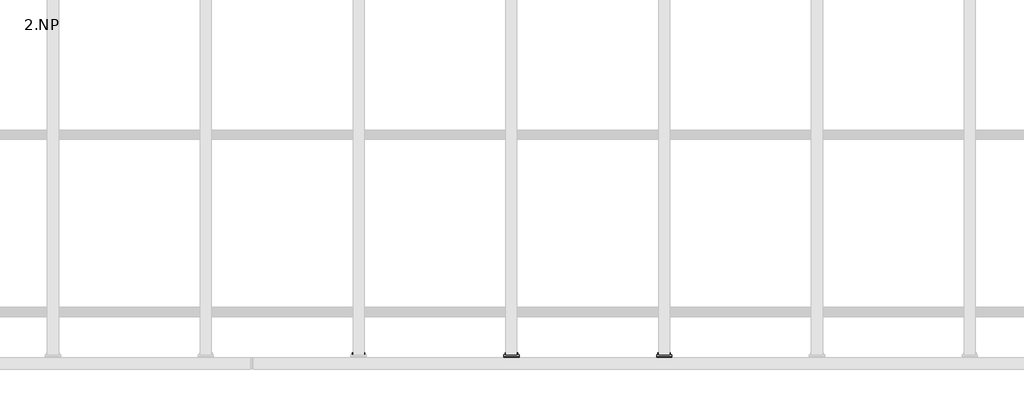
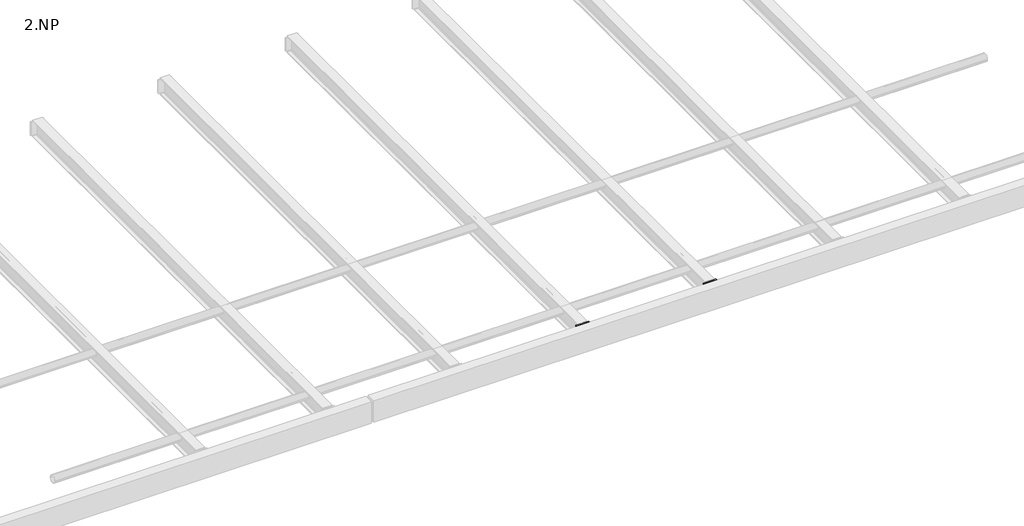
# One storey, part 6 of 18: 9 proxies.
"""IFC4 building model written with IfcOpenShell, lengths in millimetres."""

from ifc_helpers import new_model, si_unit, point, frame, frame_2d, origin, place, context, project, spatial, polyline, circle_curve, trimmed, segment, composite_curve, outline, extrude, element, save

model = new_model("IFC4")

# Units and contexts
model_context = context("Model", 3, world=origin())
ifc_project = project(units=[si_unit("LENGTHUNIT", "METRE", prefix="MILLI")], contexts=[model_context])

# Site, building, storey
site = spatial("IfcSite", under=ifc_project)
building = spatial("IfcBuilding", under=site)
storey = spatial("IfcBuildingStorey", under=building, Name="2.NP", Elevation=3000.0)

# Proxies
placement = place(None, origin())
element("IfcBuildingElementProxy", 1, Name="PLECH", ObjectType="PLECH", at=placement, inside=storey, context=model_context, shape_type="SweptSolid", body=[
    extrude(outline(polyline([(10000.0, -180.0), (10100.0, -180.0), (10100.0, -190.0), (10000.0, -190.0), (10000.0, -180.0)])), frame((0.0, 0.0, 3166.5), z_axis=(0.0, 0.0, 1.0), x_axis=(1.0, 0.0, 0.0)), (0.0, 0.0, 1.0), 127.0),
])
element("IfcBuildingElementProxy", 2, Name="PLECH", ObjectType="PLECH", at=placement, inside=storey, context=model_context, shape_type="SweptSolid", body=[
    extrude(outline(polyline([(11000.0, -180.0), (11100.0, -180.0), (11100.0, -190.0), (11000.0, -190.0), (11000.0, -180.0)])), frame((0.0, 0.0, 3166.5), z_axis=(0.0, 0.0, 1.0), x_axis=(1.0, 0.0, 0.0)), (0.0, 0.0, 1.0), 127.0),
])
element("IfcBuildingElementProxy", 3, Name="PLECH", ObjectType="PLECH", at=placement, inside=storey, context=model_context, shape_type="SweptSolid", body=[
    extrude(outline(polyline([(10000.0, -190.0), (10100.0, -190.0), (10100.0, -200.0), (10000.0, -200.0), (10000.0, -190.0)])), frame((0.0, 0.0, 3127.5), z_axis=(0.0, 0.0, 1.0), x_axis=(1.0, 0.0, 0.0)), (0.0, 0.0, 1.0), 166.0000153),
])
element("IfcBuildingElementProxy", 4, Name="PLECH", ObjectType="PLECH", at=placement, inside=storey, context=model_context, shape_type="SweptSolid", body=[
    extrude(outline(composite_curve([segment(polyline([(-200.0, 3289.5), (-200.0, 3130.5), (-249.5, 3130.5)]), True, "CONTINUOUS"), segment(trimmed(circle_curve(frame_2d((-269.5, 3130.5)), 20.0), [point((-249.5, 3130.5))], [point((-269.5, 3150.5))], True, "CARTESIAN"), True, "CONTINUOUS"), segment(polyline([(-269.5, 3150.5), (-269.5, 3269.5)]), True, "CONTINUOUS"), segment(trimmed(circle_curve(frame_2d((-269.5, 3289.5)), 20.0), [point((-269.5, 3269.5))], [point((-249.5, 3289.5))], True, "CARTESIAN"), True, "CONTINUOUS"), segment(polyline([(-249.5, 3289.5), (-200.0, 3289.5)]), True, "CONTINUOUS")], self_intersect=False)), frame((10046.0, 0.0, 0.0), z_axis=(1.0, 0.0, 0.0), x_axis=(0.0, 1.0, 0.0)), (0.0, 0.0, 1.0), 8.0),
])
element("IfcBuildingElementProxy", 5, Name="PLECH", ObjectType="PLECH", at=placement, inside=storey, context=model_context, shape_type="SweptSolid", body=[
    extrude(outline(polyline([(11000.0, -190.0), (11100.0, -190.0), (11100.0, -200.0), (11000.0, -200.0), (11000.0, -190.0)])), frame((0.0, 0.0, 3127.5), z_axis=(0.0, 0.0, 1.0), x_axis=(1.0, 0.0, 0.0)), (0.0, 0.0, 1.0), 166.0000153),
])
element("IfcBuildingElementProxy", 6, Name="PLECH", ObjectType="PLECH", at=placement, inside=storey, context=model_context, shape_type="SweptSolid", body=[
    extrude(outline(composite_curve([segment(polyline([(-200.0, 3289.5), (-200.0, 3130.5), (-249.5, 3130.5)]), True, "CONTINUOUS"), segment(trimmed(circle_curve(frame_2d((-269.5, 3130.5)), 20.0), [point((-249.5, 3130.5))], [point((-269.5, 3150.5))], True, "CARTESIAN"), True, "CONTINUOUS"), segment(polyline([(-269.5, 3150.5), (-269.5, 3269.5)]), True, "CONTINUOUS"), segment(trimmed(circle_curve(frame_2d((-269.5, 3289.5)), 20.0), [point((-269.5, 3269.5))], [point((-249.5, 3289.5))], True, "CARTESIAN"), True, "CONTINUOUS"), segment(polyline([(-249.5, 3289.5), (-200.0, 3289.5)]), True, "CONTINUOUS")], self_intersect=False)), frame((11046.0, 0.0, 0.0), z_axis=(1.0, 0.0, 0.0), x_axis=(0.0, 1.0, 0.0)), (0.0, 0.0, 1.0), 8.0),
])
element("IfcBuildingElementProxy", 7, Name="Bolt assembly", ObjectType="Bolt assembly", at=placement, inside=storey, context=model_context, shape_type="SweptSolid", body=[
    extrude(outline(composite_curve([segment(trimmed(circle_curve(frame_2d((3260.0, 9020.0)), 6.5), [point((3260.0, 9026.5))], [point((3260.0, 9013.5))], False, "CARTESIAN"), True, "CONTINUOUS"), segment(trimmed(circle_curve(frame_2d((3260.0, 9020.0)), 6.5), [point((3260.0, 9013.5))], [point((3260.0, 9026.5))], False, "CARTESIAN"), True, "CONTINUOUS")], self_intersect=False)), frame((0.0, -199.9, 0.0), z_axis=(0.0, 1.0, 0.0), x_axis=(0.0, 0.0, 1.0)), (0.0, 0.0, 1.0), 10.0),
    extrude(outline(polyline([(3260.0, 9030.9696551), (3269.5, 9025.4848276), (3269.5, 9014.5151724), (3260.0, 9009.0303449), (3250.5, 9014.5151724), (3250.5, 9025.4848276), (3260.0, 9030.9696551)])), frame((0.0, -210.0, 0.0), z_axis=(0.0, 1.0, 0.0), x_axis=(0.0, 0.0, 1.0)), (0.0, 0.0, 1.0), 7.5),
    extrude(outline(composite_curve([segment(trimmed(circle_curve(frame_2d((3260.0, 9020.0)), 6.0), [point((3260.0, 9026.0))], [point((3260.0, 9014.0))], False, "CARTESIAN"), True, "CONTINUOUS"), segment(trimmed(circle_curve(frame_2d((3260.0, 9020.0)), 6.0), [point((3260.0, 9014.0))], [point((3260.0, 9026.0))], False, "CARTESIAN"), True, "CONTINUOUS")], self_intersect=False)), frame((0.0, -202.5, 0.0), z_axis=(0.0, 1.0, 0.0), x_axis=(0.0, 0.0, 1.0)), (0.0, 0.0, 1.0), 40.0),
    extrude(outline(composite_curve([segment(trimmed(circle_curve(frame_2d((3260.0, 9020.0)), 12.0), [point((3260.0, 9032.0))], [point((3260.0, 9008.0))], False, "CARTESIAN"), True, "CONTINUOUS"), segment(trimmed(circle_curve(frame_2d((3260.0, 9020.0)), 12.0), [point((3260.0, 9008.0))], [point((3260.0, 9032.0))], False, "CARTESIAN"), True, "CONTINUOUS")], self_intersect=False)), frame((0.0, -202.5, 0.0), z_axis=(0.0, 1.0, 0.0), x_axis=(0.0, 0.0, 1.0)), (0.0, 0.0, 1.0), 2.5),
    extrude(outline(composite_curve([segment(trimmed(circle_curve(frame_2d((3260.0, 9020.0)), 12.0), [point((3260.0, 9032.0))], [point((3260.0, 9008.0))], False, "CARTESIAN"), True, "CONTINUOUS"), segment(trimmed(circle_curve(frame_2d((3260.0, 9020.0)), 12.0), [point((3260.0, 9008.0))], [point((3260.0, 9032.0))], False, "CARTESIAN"), True, "CONTINUOUS")], self_intersect=False)), frame((0.0, -180.0, 0.0), z_axis=(0.0, 1.0, 0.0), x_axis=(0.0, 0.0, 1.0)), (0.0, 0.0, 1.0), 2.5),
    extrude(outline(polyline([(3260.0, 9030.9696551), (3269.5, 9025.4848276), (3269.5, 9014.5151724), (3260.0, 9009.0303449), (3250.5, 9014.5151724), (3250.5, 9025.4848276), (3260.0, 9030.9696551)])), frame((0.0, -177.5, 0.0), z_axis=(0.0, 1.0, 0.0), x_axis=(0.0, 0.0, 1.0)), (0.0, 0.0, 1.0), 10.0),
    extrude(outline(composite_curve([segment(trimmed(circle_curve(frame_2d((3260.0, 9020.0)), 6.5), [point((3260.0, 9026.5))], [point((3260.0, 9013.5))], False, "CARTESIAN"), True, "CONTINUOUS"), segment(trimmed(circle_curve(frame_2d((3260.0, 9020.0)), 6.5), [point((3260.0, 9013.5))], [point((3260.0, 9026.5))], False, "CARTESIAN"), True, "CONTINUOUS")], self_intersect=False)), frame((0.0, -190.1, 0.0), z_axis=(0.0, 1.0, 0.0), x_axis=(0.0, 0.0, 1.0)), (0.0, 0.0, 1.0), 10.1),
    extrude(outline(composite_curve([segment(trimmed(circle_curve(frame_2d((3260.0, 9080.0)), 6.5), [point((3260.0, 9086.5))], [point((3260.0, 9073.5))], False, "CARTESIAN"), True, "CONTINUOUS"), segment(trimmed(circle_curve(frame_2d((3260.0, 9080.0)), 6.5), [point((3260.0, 9073.5))], [point((3260.0, 9086.5))], False, "CARTESIAN"), True, "CONTINUOUS")], self_intersect=False)), frame((0.0, -199.9, 0.0), z_axis=(0.0, 1.0, 0.0), x_axis=(0.0, 0.0, 1.0)), (0.0, 0.0, 1.0), 10.0),
    extrude(outline(polyline([(3260.0, 9090.9696551), (3269.5, 9085.4848276), (3269.5, 9074.5151724), (3260.0, 9069.0303449), (3250.5, 9074.5151724), (3250.5, 9085.4848276), (3260.0, 9090.9696551)])), frame((0.0, -210.0, 0.0), z_axis=(0.0, 1.0, 0.0), x_axis=(0.0, 0.0, 1.0)), (0.0, 0.0, 1.0), 7.5),
    extrude(outline(composite_curve([segment(trimmed(circle_curve(frame_2d((3260.0, 9080.0)), 6.0), [point((3260.0, 9086.0))], [point((3260.0, 9074.0))], False, "CARTESIAN"), True, "CONTINUOUS"), segment(trimmed(circle_curve(frame_2d((3260.0, 9080.0)), 6.0), [point((3260.0, 9074.0))], [point((3260.0, 9086.0))], False, "CARTESIAN"), True, "CONTINUOUS")], self_intersect=False)), frame((0.0, -202.5, 0.0), z_axis=(0.0, 1.0, 0.0), x_axis=(0.0, 0.0, 1.0)), (0.0, 0.0, 1.0), 40.0),
    extrude(outline(composite_curve([segment(trimmed(circle_curve(frame_2d((3260.0, 9080.0)), 12.0), [point((3260.0, 9092.0))], [point((3260.0, 9068.0))], False, "CARTESIAN"), True, "CONTINUOUS"), segment(trimmed(circle_curve(frame_2d((3260.0, 9080.0)), 12.0), [point((3260.0, 9068.0))], [point((3260.0, 9092.0))], False, "CARTESIAN"), True, "CONTINUOUS")], self_intersect=False)), frame((0.0, -202.5, 0.0), z_axis=(0.0, 1.0, 0.0), x_axis=(0.0, 0.0, 1.0)), (0.0, 0.0, 1.0), 2.5),
    extrude(outline(composite_curve([segment(trimmed(circle_curve(frame_2d((3260.0, 9080.0)), 12.0), [point((3260.0, 9092.0))], [point((3260.0, 9068.0))], False, "CARTESIAN"), True, "CONTINUOUS"), segment(trimmed(circle_curve(frame_2d((3260.0, 9080.0)), 12.0), [point((3260.0, 9068.0))], [point((3260.0, 9092.0))], False, "CARTESIAN"), True, "CONTINUOUS")], self_intersect=False)), frame((0.0, -180.0, 0.0), z_axis=(0.0, 1.0, 0.0), x_axis=(0.0, 0.0, 1.0)), (0.0, 0.0, 1.0), 2.5),
    extrude(outline(polyline([(3260.0, 9090.9696551), (3269.5, 9085.4848276), (3269.5, 9074.5151724), (3260.0, 9069.0303449), (3250.5, 9074.5151724), (3250.5, 9085.4848276), (3260.0, 9090.9696551)])), frame((0.0, -177.5, 0.0), z_axis=(0.0, 1.0, 0.0), x_axis=(0.0, 0.0, 1.0)), (0.0, 0.0, 1.0), 10.0),
    extrude(outline(composite_curve([segment(trimmed(circle_curve(frame_2d((3260.0, 9080.0)), 6.5), [point((3260.0, 9086.5))], [point((3260.0, 9073.5))], False, "CARTESIAN"), True, "CONTINUOUS"), segment(trimmed(circle_curve(frame_2d((3260.0, 9080.0)), 6.5), [point((3260.0, 9073.5))], [point((3260.0, 9086.5))], False, "CARTESIAN"), True, "CONTINUOUS")], self_intersect=False)), frame((0.0, -190.1, 0.0), z_axis=(0.0, 1.0, 0.0), x_axis=(0.0, 0.0, 1.0)), (0.0, 0.0, 1.0), 10.1),
    extrude(outline(composite_curve([segment(trimmed(circle_curve(frame_2d((3200.0, 9020.0)), 6.5), [point((3200.0, 9026.5))], [point((3200.0, 9013.5))], False, "CARTESIAN"), True, "CONTINUOUS"), segment(trimmed(circle_curve(frame_2d((3200.0, 9020.0)), 6.5), [point((3200.0, 9013.5))], [point((3200.0, 9026.5))], False, "CARTESIAN"), True, "CONTINUOUS")], self_intersect=False)), frame((0.0, -199.9, 0.0), z_axis=(0.0, 1.0, 0.0), x_axis=(0.0, 0.0, 1.0)), (0.0, 0.0, 1.0), 10.0),
    extrude(outline(polyline([(3200.0, 9030.9696551), (3209.5, 9025.4848276), (3209.5, 9014.5151724), (3200.0, 9009.0303449), (3190.5, 9014.5151724), (3190.5, 9025.4848276), (3200.0, 9030.9696551)])), frame((0.0, -210.0, 0.0), z_axis=(0.0, 1.0, 0.0), x_axis=(0.0, 0.0, 1.0)), (0.0, 0.0, 1.0), 7.5),
    extrude(outline(composite_curve([segment(trimmed(circle_curve(frame_2d((3200.0, 9020.0)), 6.0), [point((3200.0, 9026.0))], [point((3200.0, 9014.0))], False, "CARTESIAN"), True, "CONTINUOUS"), segment(trimmed(circle_curve(frame_2d((3200.0, 9020.0)), 6.0), [point((3200.0, 9014.0))], [point((3200.0, 9026.0))], False, "CARTESIAN"), True, "CONTINUOUS")], self_intersect=False)), frame((0.0, -202.5, 0.0), z_axis=(0.0, 1.0, 0.0), x_axis=(0.0, 0.0, 1.0)), (0.0, 0.0, 1.0), 40.0),
    extrude(outline(composite_curve([segment(trimmed(circle_curve(frame_2d((3200.0, 9020.0)), 12.0), [point((3200.0, 9032.0))], [point((3200.0, 9008.0))], False, "CARTESIAN"), True, "CONTINUOUS"), segment(trimmed(circle_curve(frame_2d((3200.0, 9020.0)), 12.0), [point((3200.0, 9008.0))], [point((3200.0, 9032.0))], False, "CARTESIAN"), True, "CONTINUOUS")], self_intersect=False)), frame((0.0, -202.5, 0.0), z_axis=(0.0, 1.0, 0.0), x_axis=(0.0, 0.0, 1.0)), (0.0, 0.0, 1.0), 2.5),
    extrude(outline(composite_curve([segment(trimmed(circle_curve(frame_2d((3200.0, 9020.0)), 12.0), [point((3200.0, 9032.0))], [point((3200.0, 9008.0))], False, "CARTESIAN"), True, "CONTINUOUS"), segment(trimmed(circle_curve(frame_2d((3200.0, 9020.0)), 12.0), [point((3200.0, 9008.0))], [point((3200.0, 9032.0))], False, "CARTESIAN"), True, "CONTINUOUS")], self_intersect=False)), frame((0.0, -180.0, 0.0), z_axis=(0.0, 1.0, 0.0), x_axis=(0.0, 0.0, 1.0)), (0.0, 0.0, 1.0), 2.5),
    extrude(outline(polyline([(3200.0, 9030.9696551), (3209.5, 9025.4848276), (3209.5, 9014.5151724), (3200.0, 9009.0303449), (3190.5, 9014.5151724), (3190.5, 9025.4848276), (3200.0, 9030.9696551)])), frame((0.0, -177.5, 0.0), z_axis=(0.0, 1.0, 0.0), x_axis=(0.0, 0.0, 1.0)), (0.0, 0.0, 1.0), 10.0),
    extrude(outline(composite_curve([segment(trimmed(circle_curve(frame_2d((3200.0, 9020.0)), 6.5), [point((3200.0, 9026.5))], [point((3200.0, 9013.5))], False, "CARTESIAN"), True, "CONTINUOUS"), segment(trimmed(circle_curve(frame_2d((3200.0, 9020.0)), 6.5), [point((3200.0, 9013.5))], [point((3200.0, 9026.5))], False, "CARTESIAN"), True, "CONTINUOUS")], self_intersect=False)), frame((0.0, -190.1, 0.0), z_axis=(0.0, 1.0, 0.0), x_axis=(0.0, 0.0, 1.0)), (0.0, 0.0, 1.0), 10.1),
    extrude(outline(composite_curve([segment(trimmed(circle_curve(frame_2d((3200.0, 9080.0)), 6.5), [point((3200.0, 9086.5))], [point((3200.0, 9073.5))], False, "CARTESIAN"), True, "CONTINUOUS"), segment(trimmed(circle_curve(frame_2d((3200.0, 9080.0)), 6.5), [point((3200.0, 9073.5))], [point((3200.0, 9086.5))], False, "CARTESIAN"), True, "CONTINUOUS")], self_intersect=False)), frame((0.0, -199.9, 0.0), z_axis=(0.0, 1.0, 0.0), x_axis=(0.0, 0.0, 1.0)), (0.0, 0.0, 1.0), 10.0),
    extrude(outline(polyline([(3200.0, 9090.9696551), (3209.5, 9085.4848276), (3209.5, 9074.5151724), (3200.0, 9069.0303449), (3190.5, 9074.5151724), (3190.5, 9085.4848276), (3200.0, 9090.9696551)])), frame((0.0, -210.0, 0.0), z_axis=(0.0, 1.0, 0.0), x_axis=(0.0, 0.0, 1.0)), (0.0, 0.0, 1.0), 7.5),
    extrude(outline(composite_curve([segment(trimmed(circle_curve(frame_2d((3200.0, 9080.0)), 6.0), [point((3200.0, 9086.0))], [point((3200.0, 9074.0))], False, "CARTESIAN"), True, "CONTINUOUS"), segment(trimmed(circle_curve(frame_2d((3200.0, 9080.0)), 6.0), [point((3200.0, 9074.0))], [point((3200.0, 9086.0))], False, "CARTESIAN"), True, "CONTINUOUS")], self_intersect=False)), frame((0.0, -202.5, 0.0), z_axis=(0.0, 1.0, 0.0), x_axis=(0.0, 0.0, 1.0)), (0.0, 0.0, 1.0), 40.0),
    extrude(outline(composite_curve([segment(trimmed(circle_curve(frame_2d((3200.0, 9080.0)), 12.0), [point((3200.0, 9092.0))], [point((3200.0, 9068.0))], False, "CARTESIAN"), True, "CONTINUOUS"), segment(trimmed(circle_curve(frame_2d((3200.0, 9080.0)), 12.0), [point((3200.0, 9068.0))], [point((3200.0, 9092.0))], False, "CARTESIAN"), True, "CONTINUOUS")], self_intersect=False)), frame((0.0, -202.5, 0.0), z_axis=(0.0, 1.0, 0.0), x_axis=(0.0, 0.0, 1.0)), (0.0, 0.0, 1.0), 2.5),
    extrude(outline(composite_curve([segment(trimmed(circle_curve(frame_2d((3200.0, 9080.0)), 12.0), [point((3200.0, 9092.0))], [point((3200.0, 9068.0))], False, "CARTESIAN"), True, "CONTINUOUS"), segment(trimmed(circle_curve(frame_2d((3200.0, 9080.0)), 12.0), [point((3200.0, 9068.0))], [point((3200.0, 9092.0))], False, "CARTESIAN"), True, "CONTINUOUS")], self_intersect=False)), frame((0.0, -180.0, 0.0), z_axis=(0.0, 1.0, 0.0), x_axis=(0.0, 0.0, 1.0)), (0.0, 0.0, 1.0), 2.5),
    extrude(outline(polyline([(3200.0, 9090.9696551), (3209.5, 9085.4848276), (3209.5, 9074.5151724), (3200.0, 9069.0303449), (3190.5, 9074.5151724), (3190.5, 9085.4848276), (3200.0, 9090.9696551)])), frame((0.0, -177.5, 0.0), z_axis=(0.0, 1.0, 0.0), x_axis=(0.0, 0.0, 1.0)), (0.0, 0.0, 1.0), 10.0),
    extrude(outline(composite_curve([segment(trimmed(circle_curve(frame_2d((3200.0, 9080.0)), 6.5), [point((3200.0, 9086.5))], [point((3200.0, 9073.5))], False, "CARTESIAN"), True, "CONTINUOUS"), segment(trimmed(circle_curve(frame_2d((3200.0, 9080.0)), 6.5), [point((3200.0, 9073.5))], [point((3200.0, 9086.5))], False, "CARTESIAN"), True, "CONTINUOUS")], self_intersect=False)), frame((0.0, -190.1, 0.0), z_axis=(0.0, 1.0, 0.0), x_axis=(0.0, 0.0, 1.0)), (0.0, 0.0, 1.0), 10.1),
])
element("IfcBuildingElementProxy", 8, Name="Bolt assembly", ObjectType="Bolt assembly", at=placement, inside=storey, context=model_context, shape_type="SweptSolid", body=[
    extrude(outline(composite_curve([segment(trimmed(circle_curve(frame_2d((3260.0, 10020.0)), 6.5), [point((3260.0, 10026.5))], [point((3260.0, 10013.5))], False, "CARTESIAN"), True, "CONTINUOUS"), segment(trimmed(circle_curve(frame_2d((3260.0, 10020.0)), 6.5), [point((3260.0, 10013.5))], [point((3260.0, 10026.5))], False, "CARTESIAN"), True, "CONTINUOUS")], self_intersect=False)), frame((0.0, -199.9, 0.0), z_axis=(0.0, 1.0, 0.0), x_axis=(0.0, 0.0, 1.0)), (0.0, 0.0, 1.0), 10.0),
    extrude(outline(polyline([(3260.0, 10030.9696551), (3269.5, 10025.4848276), (3269.5, 10014.5151724), (3260.0, 10009.0303449), (3250.5, 10014.5151724), (3250.5, 10025.4848276), (3260.0, 10030.9696551)])), frame((0.0, -210.0, 0.0), z_axis=(0.0, 1.0, 0.0), x_axis=(0.0, 0.0, 1.0)), (0.0, 0.0, 1.0), 7.5),
    extrude(outline(composite_curve([segment(trimmed(circle_curve(frame_2d((3260.0, 10020.0)), 6.0), [point((3260.0, 10026.0))], [point((3260.0, 10014.0))], False, "CARTESIAN"), True, "CONTINUOUS"), segment(trimmed(circle_curve(frame_2d((3260.0, 10020.0)), 6.0), [point((3260.0, 10014.0))], [point((3260.0, 10026.0))], False, "CARTESIAN"), True, "CONTINUOUS")], self_intersect=False)), frame((0.0, -202.5, 0.0), z_axis=(0.0, 1.0, 0.0), x_axis=(0.0, 0.0, 1.0)), (0.0, 0.0, 1.0), 40.0),
    extrude(outline(composite_curve([segment(trimmed(circle_curve(frame_2d((3260.0, 10020.0)), 12.0), [point((3260.0, 10032.0))], [point((3260.0, 10008.0))], False, "CARTESIAN"), True, "CONTINUOUS"), segment(trimmed(circle_curve(frame_2d((3260.0, 10020.0)), 12.0), [point((3260.0, 10008.0))], [point((3260.0, 10032.0))], False, "CARTESIAN"), True, "CONTINUOUS")], self_intersect=False)), frame((0.0, -202.5, 0.0), z_axis=(0.0, 1.0, 0.0), x_axis=(0.0, 0.0, 1.0)), (0.0, 0.0, 1.0), 2.5),
    extrude(outline(composite_curve([segment(trimmed(circle_curve(frame_2d((3260.0, 10020.0)), 12.0), [point((3260.0, 10032.0))], [point((3260.0, 10008.0))], False, "CARTESIAN"), True, "CONTINUOUS"), segment(trimmed(circle_curve(frame_2d((3260.0, 10020.0)), 12.0), [point((3260.0, 10008.0))], [point((3260.0, 10032.0))], False, "CARTESIAN"), True, "CONTINUOUS")], self_intersect=False)), frame((0.0, -180.0, 0.0), z_axis=(0.0, 1.0, 0.0), x_axis=(0.0, 0.0, 1.0)), (0.0, 0.0, 1.0), 2.5),
    extrude(outline(polyline([(3260.0, 10030.9696551), (3269.5, 10025.4848276), (3269.5, 10014.5151724), (3260.0, 10009.0303449), (3250.5, 10014.5151724), (3250.5, 10025.4848276), (3260.0, 10030.9696551)])), frame((0.0, -177.5, 0.0), z_axis=(0.0, 1.0, 0.0), x_axis=(0.0, 0.0, 1.0)), (0.0, 0.0, 1.0), 10.0),
    extrude(outline(composite_curve([segment(trimmed(circle_curve(frame_2d((3260.0, 10020.0)), 6.5), [point((3260.0, 10026.5))], [point((3260.0, 10013.5))], False, "CARTESIAN"), True, "CONTINUOUS"), segment(trimmed(circle_curve(frame_2d((3260.0, 10020.0)), 6.5), [point((3260.0, 10013.5))], [point((3260.0, 10026.5))], False, "CARTESIAN"), True, "CONTINUOUS")], self_intersect=False)), frame((0.0, -190.1, 0.0), z_axis=(0.0, 1.0, 0.0), x_axis=(0.0, 0.0, 1.0)), (0.0, 0.0, 1.0), 10.1),
    extrude(outline(composite_curve([segment(trimmed(circle_curve(frame_2d((3260.0, 10080.0)), 6.5), [point((3260.0, 10086.5))], [point((3260.0, 10073.5))], False, "CARTESIAN"), True, "CONTINUOUS"), segment(trimmed(circle_curve(frame_2d((3260.0, 10080.0)), 6.5), [point((3260.0, 10073.5))], [point((3260.0, 10086.5))], False, "CARTESIAN"), True, "CONTINUOUS")], self_intersect=False)), frame((0.0, -199.9, 0.0), z_axis=(0.0, 1.0, 0.0), x_axis=(0.0, 0.0, 1.0)), (0.0, 0.0, 1.0), 10.0),
    extrude(outline(polyline([(3260.0, 10090.9696551), (3269.5, 10085.4848276), (3269.5, 10074.5151724), (3260.0, 10069.0303449), (3250.5, 10074.5151724), (3250.5, 10085.4848276), (3260.0, 10090.9696551)])), frame((0.0, -210.0, 0.0), z_axis=(0.0, 1.0, 0.0), x_axis=(0.0, 0.0, 1.0)), (0.0, 0.0, 1.0), 7.5),
    extrude(outline(composite_curve([segment(trimmed(circle_curve(frame_2d((3260.0, 10080.0)), 6.0), [point((3260.0, 10086.0))], [point((3260.0, 10074.0))], False, "CARTESIAN"), True, "CONTINUOUS"), segment(trimmed(circle_curve(frame_2d((3260.0, 10080.0)), 6.0), [point((3260.0, 10074.0))], [point((3260.0, 10086.0))], False, "CARTESIAN"), True, "CONTINUOUS")], self_intersect=False)), frame((0.0, -202.5, 0.0), z_axis=(0.0, 1.0, 0.0), x_axis=(0.0, 0.0, 1.0)), (0.0, 0.0, 1.0), 40.0),
    extrude(outline(composite_curve([segment(trimmed(circle_curve(frame_2d((3260.0, 10080.0)), 12.0), [point((3260.0, 10092.0))], [point((3260.0, 10068.0))], False, "CARTESIAN"), True, "CONTINUOUS"), segment(trimmed(circle_curve(frame_2d((3260.0, 10080.0)), 12.0), [point((3260.0, 10068.0))], [point((3260.0, 10092.0))], False, "CARTESIAN"), True, "CONTINUOUS")], self_intersect=False)), frame((0.0, -202.5, 0.0), z_axis=(0.0, 1.0, 0.0), x_axis=(0.0, 0.0, 1.0)), (0.0, 0.0, 1.0), 2.5),
    extrude(outline(composite_curve([segment(trimmed(circle_curve(frame_2d((3260.0, 10080.0)), 12.0), [point((3260.0, 10092.0))], [point((3260.0, 10068.0))], False, "CARTESIAN"), True, "CONTINUOUS"), segment(trimmed(circle_curve(frame_2d((3260.0, 10080.0)), 12.0), [point((3260.0, 10068.0))], [point((3260.0, 10092.0))], False, "CARTESIAN"), True, "CONTINUOUS")], self_intersect=False)), frame((0.0, -180.0, 0.0), z_axis=(0.0, 1.0, 0.0), x_axis=(0.0, 0.0, 1.0)), (0.0, 0.0, 1.0), 2.5),
    extrude(outline(polyline([(3260.0, 10090.9696551), (3269.5, 10085.4848276), (3269.5, 10074.5151724), (3260.0, 10069.0303449), (3250.5, 10074.5151724), (3250.5, 10085.4848276), (3260.0, 10090.9696551)])), frame((0.0, -177.5, 0.0), z_axis=(0.0, 1.0, 0.0), x_axis=(0.0, 0.0, 1.0)), (0.0, 0.0, 1.0), 10.0),
    extrude(outline(composite_curve([segment(trimmed(circle_curve(frame_2d((3260.0, 10080.0)), 6.5), [point((3260.0, 10086.5))], [point((3260.0, 10073.5))], False, "CARTESIAN"), True, "CONTINUOUS"), segment(trimmed(circle_curve(frame_2d((3260.0, 10080.0)), 6.5), [point((3260.0, 10073.5))], [point((3260.0, 10086.5))], False, "CARTESIAN"), True, "CONTINUOUS")], self_intersect=False)), frame((0.0, -190.1, 0.0), z_axis=(0.0, 1.0, 0.0), x_axis=(0.0, 0.0, 1.0)), (0.0, 0.0, 1.0), 10.1),
    extrude(outline(composite_curve([segment(trimmed(circle_curve(frame_2d((3200.0, 10020.0)), 6.5), [point((3200.0, 10026.5))], [point((3200.0, 10013.5))], False, "CARTESIAN"), True, "CONTINUOUS"), segment(trimmed(circle_curve(frame_2d((3200.0, 10020.0)), 6.5), [point((3200.0, 10013.5))], [point((3200.0, 10026.5))], False, "CARTESIAN"), True, "CONTINUOUS")], self_intersect=False)), frame((0.0, -199.9, 0.0), z_axis=(0.0, 1.0, 0.0), x_axis=(0.0, 0.0, 1.0)), (0.0, 0.0, 1.0), 10.0),
    extrude(outline(polyline([(3200.0, 10030.9696551), (3209.5, 10025.4848276), (3209.5, 10014.5151724), (3200.0, 10009.0303449), (3190.5, 10014.5151724), (3190.5, 10025.4848276), (3200.0, 10030.9696551)])), frame((0.0, -210.0, 0.0), z_axis=(0.0, 1.0, 0.0), x_axis=(0.0, 0.0, 1.0)), (0.0, 0.0, 1.0), 7.5),
    extrude(outline(composite_curve([segment(trimmed(circle_curve(frame_2d((3200.0, 10020.0)), 6.0), [point((3200.0, 10026.0))], [point((3200.0, 10014.0))], False, "CARTESIAN"), True, "CONTINUOUS"), segment(trimmed(circle_curve(frame_2d((3200.0, 10020.0)), 6.0), [point((3200.0, 10014.0))], [point((3200.0, 10026.0))], False, "CARTESIAN"), True, "CONTINUOUS")], self_intersect=False)), frame((0.0, -202.5, 0.0), z_axis=(0.0, 1.0, 0.0), x_axis=(0.0, 0.0, 1.0)), (0.0, 0.0, 1.0), 40.0),
    extrude(outline(composite_curve([segment(trimmed(circle_curve(frame_2d((3200.0, 10020.0)), 12.0), [point((3200.0, 10032.0))], [point((3200.0, 10008.0))], False, "CARTESIAN"), True, "CONTINUOUS"), segment(trimmed(circle_curve(frame_2d((3200.0, 10020.0)), 12.0), [point((3200.0, 10008.0))], [point((3200.0, 10032.0))], False, "CARTESIAN"), True, "CONTINUOUS")], self_intersect=False)), frame((0.0, -202.5, 0.0), z_axis=(0.0, 1.0, 0.0), x_axis=(0.0, 0.0, 1.0)), (0.0, 0.0, 1.0), 2.5),
    extrude(outline(composite_curve([segment(trimmed(circle_curve(frame_2d((3200.0, 10020.0)), 12.0), [point((3200.0, 10032.0))], [point((3200.0, 10008.0))], False, "CARTESIAN"), True, "CONTINUOUS"), segment(trimmed(circle_curve(frame_2d((3200.0, 10020.0)), 12.0), [point((3200.0, 10008.0))], [point((3200.0, 10032.0))], False, "CARTESIAN"), True, "CONTINUOUS")], self_intersect=False)), frame((0.0, -180.0, 0.0), z_axis=(0.0, 1.0, 0.0), x_axis=(0.0, 0.0, 1.0)), (0.0, 0.0, 1.0), 2.5),
    extrude(outline(polyline([(3200.0, 10030.9696551), (3209.5, 10025.4848276), (3209.5, 10014.5151724), (3200.0, 10009.0303449), (3190.5, 10014.5151724), (3190.5, 10025.4848276), (3200.0, 10030.9696551)])), frame((0.0, -177.5, 0.0), z_axis=(0.0, 1.0, 0.0), x_axis=(0.0, 0.0, 1.0)), (0.0, 0.0, 1.0), 10.0),
    extrude(outline(composite_curve([segment(trimmed(circle_curve(frame_2d((3200.0, 10020.0)), 6.5), [point((3200.0, 10026.5))], [point((3200.0, 10013.5))], False, "CARTESIAN"), True, "CONTINUOUS"), segment(trimmed(circle_curve(frame_2d((3200.0, 10020.0)), 6.5), [point((3200.0, 10013.5))], [point((3200.0, 10026.5))], False, "CARTESIAN"), True, "CONTINUOUS")], self_intersect=False)), frame((0.0, -190.1, 0.0), z_axis=(0.0, 1.0, 0.0), x_axis=(0.0, 0.0, 1.0)), (0.0, 0.0, 1.0), 10.1),
    extrude(outline(composite_curve([segment(trimmed(circle_curve(frame_2d((3200.0, 10080.0)), 6.5), [point((3200.0, 10086.5))], [point((3200.0, 10073.5))], False, "CARTESIAN"), True, "CONTINUOUS"), segment(trimmed(circle_curve(frame_2d((3200.0, 10080.0)), 6.5), [point((3200.0, 10073.5))], [point((3200.0, 10086.5))], False, "CARTESIAN"), True, "CONTINUOUS")], self_intersect=False)), frame((0.0, -199.9, 0.0), z_axis=(0.0, 1.0, 0.0), x_axis=(0.0, 0.0, 1.0)), (0.0, 0.0, 1.0), 10.0),
    extrude(outline(polyline([(3200.0, 10090.9696551), (3209.5, 10085.4848276), (3209.5, 10074.5151724), (3200.0, 10069.0303449), (3190.5, 10074.5151724), (3190.5, 10085.4848276), (3200.0, 10090.9696551)])), frame((0.0, -210.0, 0.0), z_axis=(0.0, 1.0, 0.0), x_axis=(0.0, 0.0, 1.0)), (0.0, 0.0, 1.0), 7.5),
    extrude(outline(composite_curve([segment(trimmed(circle_curve(frame_2d((3200.0, 10080.0)), 6.0), [point((3200.0, 10086.0))], [point((3200.0, 10074.0))], False, "CARTESIAN"), True, "CONTINUOUS"), segment(trimmed(circle_curve(frame_2d((3200.0, 10080.0)), 6.0), [point((3200.0, 10074.0))], [point((3200.0, 10086.0))], False, "CARTESIAN"), True, "CONTINUOUS")], self_intersect=False)), frame((0.0, -202.5, 0.0), z_axis=(0.0, 1.0, 0.0), x_axis=(0.0, 0.0, 1.0)), (0.0, 0.0, 1.0), 40.0),
    extrude(outline(composite_curve([segment(trimmed(circle_curve(frame_2d((3200.0, 10080.0)), 12.0), [point((3200.0, 10092.0))], [point((3200.0, 10068.0))], False, "CARTESIAN"), True, "CONTINUOUS"), segment(trimmed(circle_curve(frame_2d((3200.0, 10080.0)), 12.0), [point((3200.0, 10068.0))], [point((3200.0, 10092.0))], False, "CARTESIAN"), True, "CONTINUOUS")], self_intersect=False)), frame((0.0, -202.5, 0.0), z_axis=(0.0, 1.0, 0.0), x_axis=(0.0, 0.0, 1.0)), (0.0, 0.0, 1.0), 2.5),
    extrude(outline(composite_curve([segment(trimmed(circle_curve(frame_2d((3200.0, 10080.0)), 12.0), [point((3200.0, 10092.0))], [point((3200.0, 10068.0))], False, "CARTESIAN"), True, "CONTINUOUS"), segment(trimmed(circle_curve(frame_2d((3200.0, 10080.0)), 12.0), [point((3200.0, 10068.0))], [point((3200.0, 10092.0))], False, "CARTESIAN"), True, "CONTINUOUS")], self_intersect=False)), frame((0.0, -180.0, 0.0), z_axis=(0.0, 1.0, 0.0), x_axis=(0.0, 0.0, 1.0)), (0.0, 0.0, 1.0), 2.5),
    extrude(outline(polyline([(3200.0, 10090.9696551), (3209.5, 10085.4848276), (3209.5, 10074.5151724), (3200.0, 10069.0303449), (3190.5, 10074.5151724), (3190.5, 10085.4848276), (3200.0, 10090.9696551)])), frame((0.0, -177.5, 0.0), z_axis=(0.0, 1.0, 0.0), x_axis=(0.0, 0.0, 1.0)), (0.0, 0.0, 1.0), 10.0),
    extrude(outline(composite_curve([segment(trimmed(circle_curve(frame_2d((3200.0, 10080.0)), 6.5), [point((3200.0, 10086.5))], [point((3200.0, 10073.5))], False, "CARTESIAN"), True, "CONTINUOUS"), segment(trimmed(circle_curve(frame_2d((3200.0, 10080.0)), 6.5), [point((3200.0, 10073.5))], [point((3200.0, 10086.5))], False, "CARTESIAN"), True, "CONTINUOUS")], self_intersect=False)), frame((0.0, -190.1, 0.0), z_axis=(0.0, 1.0, 0.0), x_axis=(0.0, 0.0, 1.0)), (0.0, 0.0, 1.0), 10.1),
])
element("IfcBuildingElementProxy", 9, Name="Bolt assembly", ObjectType="Bolt assembly", at=placement, inside=storey, context=model_context, shape_type="SweptSolid", body=[
    extrude(outline(composite_curve([segment(trimmed(circle_curve(frame_2d((3260.0, 11020.0)), 6.5), [point((3260.0, 11026.5))], [point((3260.0, 11013.5))], False, "CARTESIAN"), True, "CONTINUOUS"), segment(trimmed(circle_curve(frame_2d((3260.0, 11020.0)), 6.5), [point((3260.0, 11013.5))], [point((3260.0, 11026.5))], False, "CARTESIAN"), True, "CONTINUOUS")], self_intersect=False)), frame((0.0, -199.9, 0.0), z_axis=(0.0, 1.0, 0.0), x_axis=(0.0, 0.0, 1.0)), (0.0, 0.0, 1.0), 10.0),
    extrude(outline(polyline([(3260.0, 11030.9696551), (3269.5, 11025.4848276), (3269.5, 11014.5151724), (3260.0, 11009.0303449), (3250.5, 11014.5151724), (3250.5, 11025.4848276), (3260.0, 11030.9696551)])), frame((0.0, -210.0, 0.0), z_axis=(0.0, 1.0, 0.0), x_axis=(0.0, 0.0, 1.0)), (0.0, 0.0, 1.0), 7.5),
    extrude(outline(composite_curve([segment(trimmed(circle_curve(frame_2d((3260.0, 11020.0)), 6.0), [point((3260.0, 11026.0))], [point((3260.0, 11014.0))], False, "CARTESIAN"), True, "CONTINUOUS"), segment(trimmed(circle_curve(frame_2d((3260.0, 11020.0)), 6.0), [point((3260.0, 11014.0))], [point((3260.0, 11026.0))], False, "CARTESIAN"), True, "CONTINUOUS")], self_intersect=False)), frame((0.0, -202.5, 0.0), z_axis=(0.0, 1.0, 0.0), x_axis=(0.0, 0.0, 1.0)), (0.0, 0.0, 1.0), 40.0),
    extrude(outline(composite_curve([segment(trimmed(circle_curve(frame_2d((3260.0, 11020.0)), 12.0), [point((3260.0, 11032.0))], [point((3260.0, 11008.0))], False, "CARTESIAN"), True, "CONTINUOUS"), segment(trimmed(circle_curve(frame_2d((3260.0, 11020.0)), 12.0), [point((3260.0, 11008.0))], [point((3260.0, 11032.0))], False, "CARTESIAN"), True, "CONTINUOUS")], self_intersect=False)), frame((0.0, -202.5, 0.0), z_axis=(0.0, 1.0, 0.0), x_axis=(0.0, 0.0, 1.0)), (0.0, 0.0, 1.0), 2.5),
    extrude(outline(composite_curve([segment(trimmed(circle_curve(frame_2d((3260.0, 11020.0)), 12.0), [point((3260.0, 11032.0))], [point((3260.0, 11008.0))], False, "CARTESIAN"), True, "CONTINUOUS"), segment(trimmed(circle_curve(frame_2d((3260.0, 11020.0)), 12.0), [point((3260.0, 11008.0))], [point((3260.0, 11032.0))], False, "CARTESIAN"), True, "CONTINUOUS")], self_intersect=False)), frame((0.0, -180.0, 0.0), z_axis=(0.0, 1.0, 0.0), x_axis=(0.0, 0.0, 1.0)), (0.0, 0.0, 1.0), 2.5),
    extrude(outline(polyline([(3260.0, 11030.9696551), (3269.5, 11025.4848276), (3269.5, 11014.5151724), (3260.0, 11009.0303449), (3250.5, 11014.5151724), (3250.5, 11025.4848276), (3260.0, 11030.9696551)])), frame((0.0, -177.5, 0.0), z_axis=(0.0, 1.0, 0.0), x_axis=(0.0, 0.0, 1.0)), (0.0, 0.0, 1.0), 10.0),
    extrude(outline(composite_curve([segment(trimmed(circle_curve(frame_2d((3260.0, 11020.0)), 6.5), [point((3260.0, 11026.5))], [point((3260.0, 11013.5))], False, "CARTESIAN"), True, "CONTINUOUS"), segment(trimmed(circle_curve(frame_2d((3260.0, 11020.0)), 6.5), [point((3260.0, 11013.5))], [point((3260.0, 11026.5))], False, "CARTESIAN"), True, "CONTINUOUS")], self_intersect=False)), frame((0.0, -190.1, 0.0), z_axis=(0.0, 1.0, 0.0), x_axis=(0.0, 0.0, 1.0)), (0.0, 0.0, 1.0), 10.1),
    extrude(outline(composite_curve([segment(trimmed(circle_curve(frame_2d((3260.0, 11080.0)), 6.5), [point((3260.0, 11086.5))], [point((3260.0, 11073.5))], False, "CARTESIAN"), True, "CONTINUOUS"), segment(trimmed(circle_curve(frame_2d((3260.0, 11080.0)), 6.5), [point((3260.0, 11073.5))], [point((3260.0, 11086.5))], False, "CARTESIAN"), True, "CONTINUOUS")], self_intersect=False)), frame((0.0, -199.9, 0.0), z_axis=(0.0, 1.0, 0.0), x_axis=(0.0, 0.0, 1.0)), (0.0, 0.0, 1.0), 10.0),
    extrude(outline(polyline([(3260.0, 11090.9696551), (3269.5, 11085.4848276), (3269.5, 11074.5151724), (3260.0, 11069.0303449), (3250.5, 11074.5151724), (3250.5, 11085.4848276), (3260.0, 11090.9696551)])), frame((0.0, -210.0, 0.0), z_axis=(0.0, 1.0, 0.0), x_axis=(0.0, 0.0, 1.0)), (0.0, 0.0, 1.0), 7.5),
    extrude(outline(composite_curve([segment(trimmed(circle_curve(frame_2d((3260.0, 11080.0)), 6.0), [point((3260.0, 11086.0))], [point((3260.0, 11074.0))], False, "CARTESIAN"), True, "CONTINUOUS"), segment(trimmed(circle_curve(frame_2d((3260.0, 11080.0)), 6.0), [point((3260.0, 11074.0))], [point((3260.0, 11086.0))], False, "CARTESIAN"), True, "CONTINUOUS")], self_intersect=False)), frame((0.0, -202.5, 0.0), z_axis=(0.0, 1.0, 0.0), x_axis=(0.0, 0.0, 1.0)), (0.0, 0.0, 1.0), 40.0),
    extrude(outline(composite_curve([segment(trimmed(circle_curve(frame_2d((3260.0, 11080.0)), 12.0), [point((3260.0, 11092.0))], [point((3260.0, 11068.0))], False, "CARTESIAN"), True, "CONTINUOUS"), segment(trimmed(circle_curve(frame_2d((3260.0, 11080.0)), 12.0), [point((3260.0, 11068.0))], [point((3260.0, 11092.0))], False, "CARTESIAN"), True, "CONTINUOUS")], self_intersect=False)), frame((0.0, -202.5, 0.0), z_axis=(0.0, 1.0, 0.0), x_axis=(0.0, 0.0, 1.0)), (0.0, 0.0, 1.0), 2.5),
    extrude(outline(composite_curve([segment(trimmed(circle_curve(frame_2d((3260.0, 11080.0)), 12.0), [point((3260.0, 11092.0))], [point((3260.0, 11068.0))], False, "CARTESIAN"), True, "CONTINUOUS"), segment(trimmed(circle_curve(frame_2d((3260.0, 11080.0)), 12.0), [point((3260.0, 11068.0))], [point((3260.0, 11092.0))], False, "CARTESIAN"), True, "CONTINUOUS")], self_intersect=False)), frame((0.0, -180.0, 0.0), z_axis=(0.0, 1.0, 0.0), x_axis=(0.0, 0.0, 1.0)), (0.0, 0.0, 1.0), 2.5),
    extrude(outline(polyline([(3260.0, 11090.9696551), (3269.5, 11085.4848276), (3269.5, 11074.5151724), (3260.0, 11069.0303449), (3250.5, 11074.5151724), (3250.5, 11085.4848276), (3260.0, 11090.9696551)])), frame((0.0, -177.5, 0.0), z_axis=(0.0, 1.0, 0.0), x_axis=(0.0, 0.0, 1.0)), (0.0, 0.0, 1.0), 10.0),
    extrude(outline(composite_curve([segment(trimmed(circle_curve(frame_2d((3260.0, 11080.0)), 6.5), [point((3260.0, 11086.5))], [point((3260.0, 11073.5))], False, "CARTESIAN"), True, "CONTINUOUS"), segment(trimmed(circle_curve(frame_2d((3260.0, 11080.0)), 6.5), [point((3260.0, 11073.5))], [point((3260.0, 11086.5))], False, "CARTESIAN"), True, "CONTINUOUS")], self_intersect=False)), frame((0.0, -190.1, 0.0), z_axis=(0.0, 1.0, 0.0), x_axis=(0.0, 0.0, 1.0)), (0.0, 0.0, 1.0), 10.1),
    extrude(outline(composite_curve([segment(trimmed(circle_curve(frame_2d((3200.0, 11020.0)), 6.5), [point((3200.0, 11026.5))], [point((3200.0, 11013.5))], False, "CARTESIAN"), True, "CONTINUOUS"), segment(trimmed(circle_curve(frame_2d((3200.0, 11020.0)), 6.5), [point((3200.0, 11013.5))], [point((3200.0, 11026.5))], False, "CARTESIAN"), True, "CONTINUOUS")], self_intersect=False)), frame((0.0, -199.9, 0.0), z_axis=(0.0, 1.0, 0.0), x_axis=(0.0, 0.0, 1.0)), (0.0, 0.0, 1.0), 10.0),
    extrude(outline(polyline([(3200.0, 11030.9696551), (3209.5, 11025.4848276), (3209.5, 11014.5151724), (3200.0, 11009.0303449), (3190.5, 11014.5151724), (3190.5, 11025.4848276), (3200.0, 11030.9696551)])), frame((0.0, -210.0, 0.0), z_axis=(0.0, 1.0, 0.0), x_axis=(0.0, 0.0, 1.0)), (0.0, 0.0, 1.0), 7.5),
    extrude(outline(composite_curve([segment(trimmed(circle_curve(frame_2d((3200.0, 11020.0)), 6.0), [point((3200.0, 11026.0))], [point((3200.0, 11014.0))], False, "CARTESIAN"), True, "CONTINUOUS"), segment(trimmed(circle_curve(frame_2d((3200.0, 11020.0)), 6.0), [point((3200.0, 11014.0))], [point((3200.0, 11026.0))], False, "CARTESIAN"), True, "CONTINUOUS")], self_intersect=False)), frame((0.0, -202.5, 0.0), z_axis=(0.0, 1.0, 0.0), x_axis=(0.0, 0.0, 1.0)), (0.0, 0.0, 1.0), 40.0),
    extrude(outline(composite_curve([segment(trimmed(circle_curve(frame_2d((3200.0, 11020.0)), 12.0), [point((3200.0, 11032.0))], [point((3200.0, 11008.0))], False, "CARTESIAN"), True, "CONTINUOUS"), segment(trimmed(circle_curve(frame_2d((3200.0, 11020.0)), 12.0), [point((3200.0, 11008.0))], [point((3200.0, 11032.0))], False, "CARTESIAN"), True, "CONTINUOUS")], self_intersect=False)), frame((0.0, -202.5, 0.0), z_axis=(0.0, 1.0, 0.0), x_axis=(0.0, 0.0, 1.0)), (0.0, 0.0, 1.0), 2.5),
    extrude(outline(composite_curve([segment(trimmed(circle_curve(frame_2d((3200.0, 11020.0)), 12.0), [point((3200.0, 11032.0))], [point((3200.0, 11008.0))], False, "CARTESIAN"), True, "CONTINUOUS"), segment(trimmed(circle_curve(frame_2d((3200.0, 11020.0)), 12.0), [point((3200.0, 11008.0))], [point((3200.0, 11032.0))], False, "CARTESIAN"), True, "CONTINUOUS")], self_intersect=False)), frame((0.0, -180.0, 0.0), z_axis=(0.0, 1.0, 0.0), x_axis=(0.0, 0.0, 1.0)), (0.0, 0.0, 1.0), 2.5),
    extrude(outline(polyline([(3200.0, 11030.9696551), (3209.5, 11025.4848276), (3209.5, 11014.5151724), (3200.0, 11009.0303449), (3190.5, 11014.5151724), (3190.5, 11025.4848276), (3200.0, 11030.9696551)])), frame((0.0, -177.5, 0.0), z_axis=(0.0, 1.0, 0.0), x_axis=(0.0, 0.0, 1.0)), (0.0, 0.0, 1.0), 10.0),
    extrude(outline(composite_curve([segment(trimmed(circle_curve(frame_2d((3200.0, 11020.0)), 6.5), [point((3200.0, 11026.5))], [point((3200.0, 11013.5))], False, "CARTESIAN"), True, "CONTINUOUS"), segment(trimmed(circle_curve(frame_2d((3200.0, 11020.0)), 6.5), [point((3200.0, 11013.5))], [point((3200.0, 11026.5))], False, "CARTESIAN"), True, "CONTINUOUS")], self_intersect=False)), frame((0.0, -190.1, 0.0), z_axis=(0.0, 1.0, 0.0), x_axis=(0.0, 0.0, 1.0)), (0.0, 0.0, 1.0), 10.1),
    extrude(outline(composite_curve([segment(trimmed(circle_curve(frame_2d((3200.0, 11080.0)), 6.5), [point((3200.0, 11086.5))], [point((3200.0, 11073.5))], False, "CARTESIAN"), True, "CONTINUOUS"), segment(trimmed(circle_curve(frame_2d((3200.0, 11080.0)), 6.5), [point((3200.0, 11073.5))], [point((3200.0, 11086.5))], False, "CARTESIAN"), True, "CONTINUOUS")], self_intersect=False)), frame((0.0, -199.9, 0.0), z_axis=(0.0, 1.0, 0.0), x_axis=(0.0, 0.0, 1.0)), (0.0, 0.0, 1.0), 10.0),
    extrude(outline(polyline([(3200.0, 11090.9696551), (3209.5, 11085.4848276), (3209.5, 11074.5151724), (3200.0, 11069.0303449), (3190.5, 11074.5151724), (3190.5, 11085.4848276), (3200.0, 11090.9696551)])), frame((0.0, -210.0, 0.0), z_axis=(0.0, 1.0, 0.0), x_axis=(0.0, 0.0, 1.0)), (0.0, 0.0, 1.0), 7.5),
    extrude(outline(composite_curve([segment(trimmed(circle_curve(frame_2d((3200.0, 11080.0)), 6.0), [point((3200.0, 11086.0))], [point((3200.0, 11074.0))], False, "CARTESIAN"), True, "CONTINUOUS"), segment(trimmed(circle_curve(frame_2d((3200.0, 11080.0)), 6.0), [point((3200.0, 11074.0))], [point((3200.0, 11086.0))], False, "CARTESIAN"), True, "CONTINUOUS")], self_intersect=False)), frame((0.0, -202.5, 0.0), z_axis=(0.0, 1.0, 0.0), x_axis=(0.0, 0.0, 1.0)), (0.0, 0.0, 1.0), 40.0),
    extrude(outline(composite_curve([segment(trimmed(circle_curve(frame_2d((3200.0, 11080.0)), 12.0), [point((3200.0, 11092.0))], [point((3200.0, 11068.0))], False, "CARTESIAN"), True, "CONTINUOUS"), segment(trimmed(circle_curve(frame_2d((3200.0, 11080.0)), 12.0), [point((3200.0, 11068.0))], [point((3200.0, 11092.0))], False, "CARTESIAN"), True, "CONTINUOUS")], self_intersect=False)), frame((0.0, -202.5, 0.0), z_axis=(0.0, 1.0, 0.0), x_axis=(0.0, 0.0, 1.0)), (0.0, 0.0, 1.0), 2.5),
    extrude(outline(composite_curve([segment(trimmed(circle_curve(frame_2d((3200.0, 11080.0)), 12.0), [point((3200.0, 11092.0))], [point((3200.0, 11068.0))], False, "CARTESIAN"), True, "CONTINUOUS"), segment(trimmed(circle_curve(frame_2d((3200.0, 11080.0)), 12.0), [point((3200.0, 11068.0))], [point((3200.0, 11092.0))], False, "CARTESIAN"), True, "CONTINUOUS")], self_intersect=False)), frame((0.0, -180.0, 0.0), z_axis=(0.0, 1.0, 0.0), x_axis=(0.0, 0.0, 1.0)), (0.0, 0.0, 1.0), 2.5),
    extrude(outline(polyline([(3200.0, 11090.9696551), (3209.5, 11085.4848276), (3209.5, 11074.5151724), (3200.0, 11069.0303449), (3190.5, 11074.5151724), (3190.5, 11085.4848276), (3200.0, 11090.9696551)])), frame((0.0, -177.5, 0.0), z_axis=(0.0, 1.0, 0.0), x_axis=(0.0, 0.0, 1.0)), (0.0, 0.0, 1.0), 10.0),
    extrude(outline(composite_curve([segment(trimmed(circle_curve(frame_2d((3200.0, 11080.0)), 6.5), [point((3200.0, 11086.5))], [point((3200.0, 11073.5))], False, "CARTESIAN"), True, "CONTINUOUS"), segment(trimmed(circle_curve(frame_2d((3200.0, 11080.0)), 6.5), [point((3200.0, 11073.5))], [point((3200.0, 11086.5))], False, "CARTESIAN"), True, "CONTINUOUS")], self_intersect=False)), frame((0.0, -190.1, 0.0), z_axis=(0.0, 1.0, 0.0), x_axis=(0.0, 0.0, 1.0)), (0.0, 0.0, 1.0), 10.1),
])

save(model, "model.ifc")
